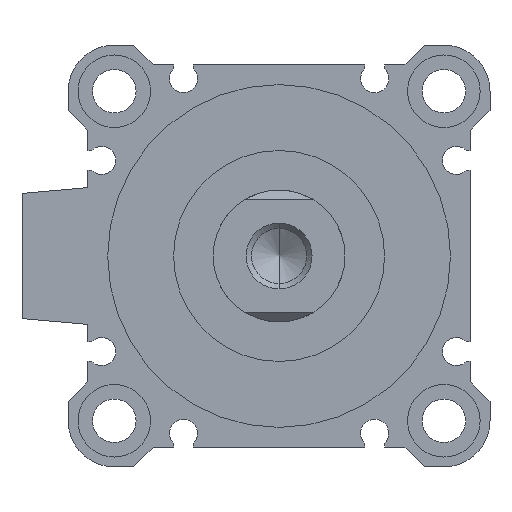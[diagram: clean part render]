
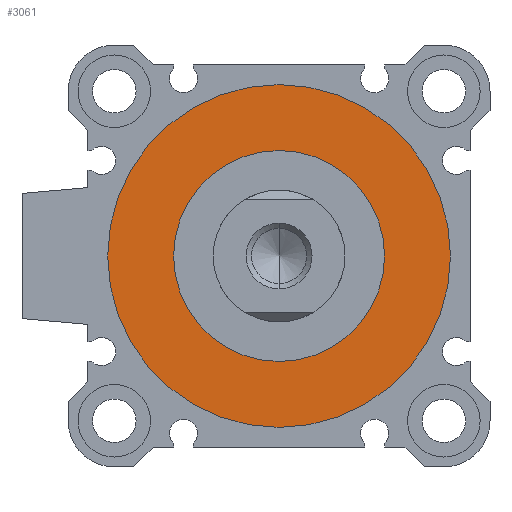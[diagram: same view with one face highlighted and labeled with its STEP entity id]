
A CAD part, left-side view. The second image highlights one B-rep face of the part: STEP entity #3061.
In plain terms, the highlighted planar face has unit normal (-1, 0, 0).
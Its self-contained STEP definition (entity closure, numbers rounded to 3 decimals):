
#30 = EDGE_CURVE ( 'NONE', #2251, #1532, #794, .T. ) ;
#63 = VERTEX_POINT ( 'NONE', #2201 ) ;
#551 = ORIENTED_EDGE ( 'NONE', *, *, #3353, .F. ) ;
#794 = CIRCLE ( 'NONE', #4622, 16. ) ;
#891 = EDGE_CURVE ( 'NONE', #4468, #63, #2350, .T. ) ;
#1005 = CIRCLE ( 'NONE', #3361, 16. ) ;
#1075 = PLANE ( 'NONE',  #4260 ) ;
#1277 = CARTESIAN_POINT ( 'NONE',  ( 3., 0., 26. ) ) ;
#1325 = CARTESIAN_POINT ( 'NONE',  ( 3., 0., 0. ) ) ;
#1407 = DIRECTION ( 'NONE',  ( 1., 0., 0. ) ) ;
#1460 = AXIS2_PLACEMENT_3D ( 'NONE', #2019, #1407, #1874 ) ;
#1532 = VERTEX_POINT ( 'NONE', #3883 ) ;
#1640 = EDGE_LOOP ( 'NONE', ( #4768, #551 ) ) ;
#1663 = EDGE_LOOP ( 'NONE', ( #4037, #3434 ) ) ;
#1695 = DIRECTION ( 'NONE',  ( 1., 0., 0. ) ) ;
#1732 = DIRECTION ( 'NONE',  ( 0., 0., -1. ) ) ;
#1785 = DIRECTION ( 'NONE',  ( 0., 0., -1. ) ) ;
#1874 = DIRECTION ( 'NONE',  ( 0., 0., -1. ) ) ;
#2019 = CARTESIAN_POINT ( 'NONE',  ( 3., 0., 0. ) ) ;
#2157 = CIRCLE ( 'NONE', #2874, 26. ) ;
#2201 = CARTESIAN_POINT ( 'NONE',  ( 3., 0., -26. ) ) ;
#2251 = VERTEX_POINT ( 'NONE', #2494 ) ;
#2296 = EDGE_CURVE ( 'NONE', #1532, #2251, #1005, .T. ) ;
#2350 = CIRCLE ( 'NONE', #1460, 26. ) ;
#2494 = CARTESIAN_POINT ( 'NONE',  ( 3., 0., -16. ) ) ;
#2516 = DIRECTION ( 'NONE',  ( 1., 0., 0. ) ) ;
#2551 = DIRECTION ( 'NONE',  ( 0., 1., 0. ) ) ;
#2857 = CARTESIAN_POINT ( 'NONE',  ( 3., 0., 0. ) ) ;
#2869 = DIRECTION ( 'NONE',  ( 1., 0., 0. ) ) ;
#2874 = AXIS2_PLACEMENT_3D ( 'NONE', #3728, #2516, #1785 ) ;
#3061 = ADVANCED_FACE ( 'NONE', ( #4851, #4565 ), #1075, .F. ) ;
#3239 = DIRECTION ( 'NONE',  ( 0., 0., -1. ) ) ;
#3343 = DIRECTION ( 'NONE',  ( 1., 0., 0. ) ) ;
#3353 = EDGE_CURVE ( 'NONE', #63, #4468, #2157, .T. ) ;
#3361 = AXIS2_PLACEMENT_3D ( 'NONE', #1325, #2869, #1732 ) ;
#3434 = ORIENTED_EDGE ( 'NONE', *, *, #30, .T. ) ;
#3728 = CARTESIAN_POINT ( 'NONE',  ( 3., 0., 0. ) ) ;
#3795 = CARTESIAN_POINT ( 'NONE',  ( 3., 0., 0. ) ) ;
#3883 = CARTESIAN_POINT ( 'NONE',  ( 3., 0., 16. ) ) ;
#4037 = ORIENTED_EDGE ( 'NONE', *, *, #2296, .T. ) ;
#4260 = AXIS2_PLACEMENT_3D ( 'NONE', #3795, #3343, #2551 ) ;
#4468 = VERTEX_POINT ( 'NONE', #1277 ) ;
#4565 = FACE_BOUND ( 'NONE', #1663, .T. ) ;
#4622 = AXIS2_PLACEMENT_3D ( 'NONE', #2857, #1695, #3239 ) ;
#4768 = ORIENTED_EDGE ( 'NONE', *, *, #891, .F. ) ;
#4851 = FACE_OUTER_BOUND ( 'NONE', #1640, .T. ) ;
